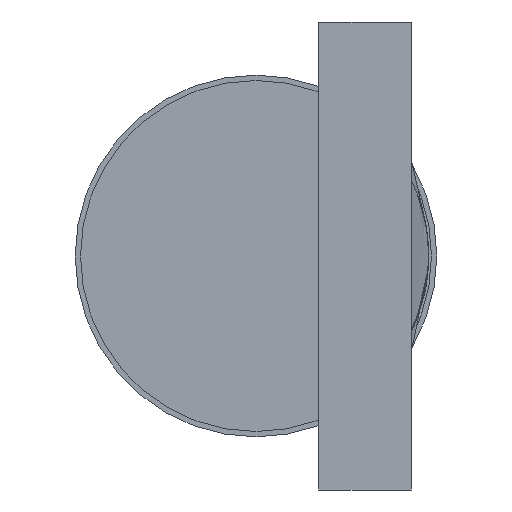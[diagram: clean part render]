
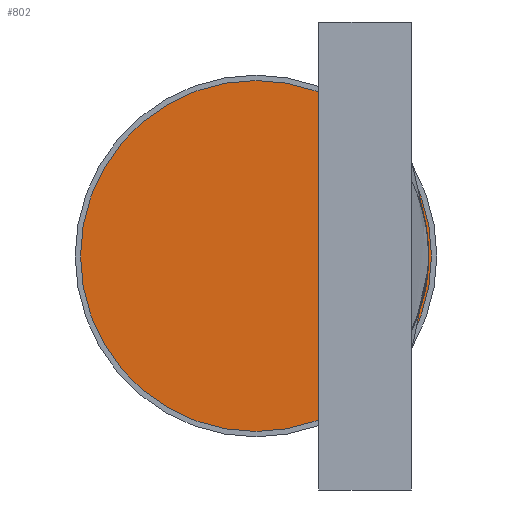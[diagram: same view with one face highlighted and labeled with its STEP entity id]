
A CAD part, left-side view. The second image highlights one B-rep face of the part: STEP entity #802.
In plain terms, the highlighted planar face has unit normal (-1, 0, 0).
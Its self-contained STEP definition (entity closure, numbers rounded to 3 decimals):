
#56=LINE('',#2328,#121);
#121=VECTOR('',#1009,10.);
#187=FACE_BOUND('',#269,.T.);
#217=FACE_OUTER_BOUND('',#268,.T.);
#268=EDGE_LOOP('',(#624));
#269=EDGE_LOOP('',(#625,#626));
#299=CIRCLE('',#857,4.191);
#300=CIRCLE('',#859,4.128);
#337=VERTEX_POINT('',#2171);
#338=VERTEX_POINT('',#2175);
#339=VERTEX_POINT('',#2176);
#418=EDGE_CURVE('',#337,#337,#299,.T.);
#419=EDGE_CURVE('',#338,#339,#300,.T.);
#458=EDGE_CURVE('',#339,#338,#56,.T.);
#624=ORIENTED_EDGE('',*,*,#418,.T.);
#625=ORIENTED_EDGE('',*,*,#458,.F.);
#626=ORIENTED_EDGE('',*,*,#419,.F.);
#727=PLANE('',#878);
#802=ADVANCED_FACE('',(#217,#187),#727,.T.);
#857=AXIS2_PLACEMENT_3D('',#2173,#938,#939);
#859=AXIS2_PLACEMENT_3D('',#2177,#942,#943);
#878=AXIS2_PLACEMENT_3D('',#2329,#1010,#1011);
#938=DIRECTION('center_axis',(-1.,0.,0.));
#939=DIRECTION('ref_axis',(0.,0.,1.));
#942=DIRECTION('center_axis',(-1.,0.,0.));
#943=DIRECTION('ref_axis',(0.,-1.,0.));
#1009=DIRECTION('',(0.,0.,-1.));
#1010=DIRECTION('center_axis',(-1.,0.,0.));
#1011=DIRECTION('ref_axis',(0.,0.,1.));
#2171=CARTESIAN_POINT('',(-134.976,0.,-4.191));
#2173=CARTESIAN_POINT('Origin',(-134.976,0.,0.));
#2175=CARTESIAN_POINT('',(-134.976,-1.5,-3.845));
#2176=CARTESIAN_POINT('',(-134.976,-1.5,3.845));
#2177=CARTESIAN_POINT('Origin',(-134.976,0.,0.));
#2328=CARTESIAN_POINT('',(-134.976,-1.5,1.923));
#2329=CARTESIAN_POINT('Origin',(-134.976,0.,0.));
